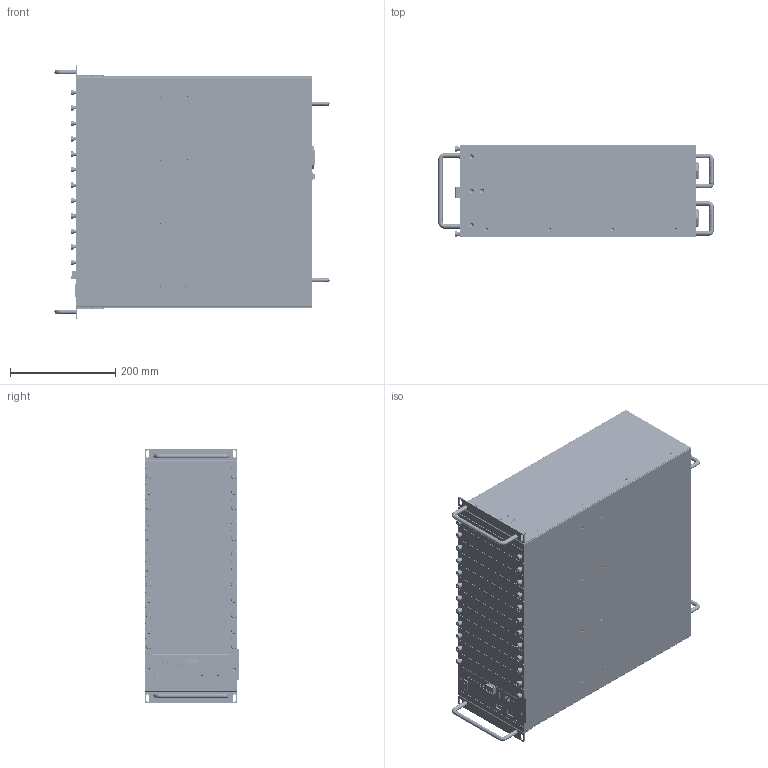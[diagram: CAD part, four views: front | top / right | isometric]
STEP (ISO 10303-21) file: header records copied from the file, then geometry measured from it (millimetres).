
FILE_DESCRIPTION((''),'2;1');
FILE_NAME('3D_ICS-G7750A-2XG-HV-HV','2014-09-10T',('Vincent_Huang'),(''),'PRO/ENGINEER BY PARAMETRIC TECHNOLOGY CORPORATION, 2004320','PRO/ENGINEER BY PARAMETRIC TECHNOLOGY CORPORATION, 2004320','');
FILE_SCHEMA(('CONFIG_CONTROL_DESIGN'));
Products named in the file (1): 3D_ICS-G7750A-2XG-HV-HV
Bounding box: 523.8 x 179.85 x 484 mm (x, y, z)
Surface area: 4646248.9 mm2 (no closed solid volume)
Topology: 0 solids, 489 shells, 28232 faces, 74687 edges, 48896 vertices
Faces by surface type: plane 18738, cylinder 7872, bspline 724, cone 512, torus 332, extrusion 28, sphere 26
Entity records: 957157 total; most frequent: CARTESIAN_POINT 249626, ORIENTED_EDGE 146358, DIRECTION 140349, EDGE_CURVE 74649, VECTOR 54777, LINE 54749, VERTEX_POINT 48895, AXIS2_PLACEMENT_3D 42786
